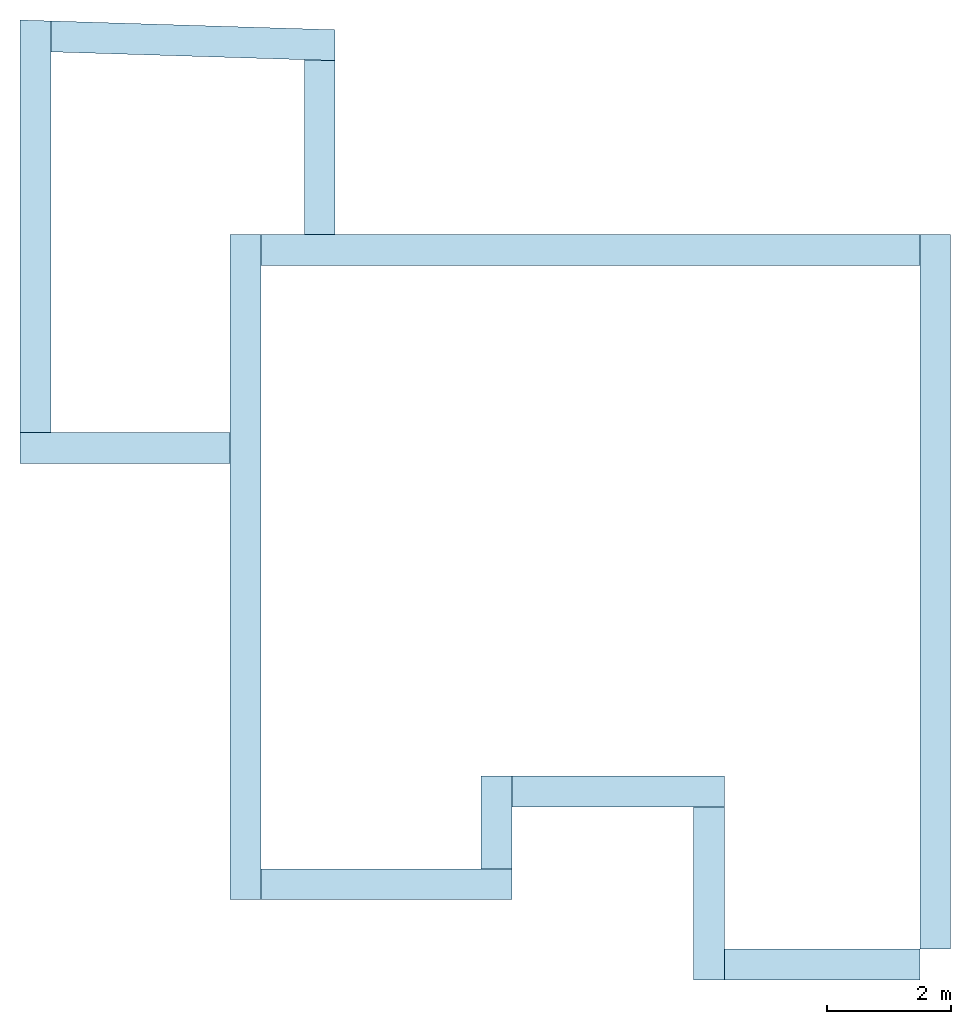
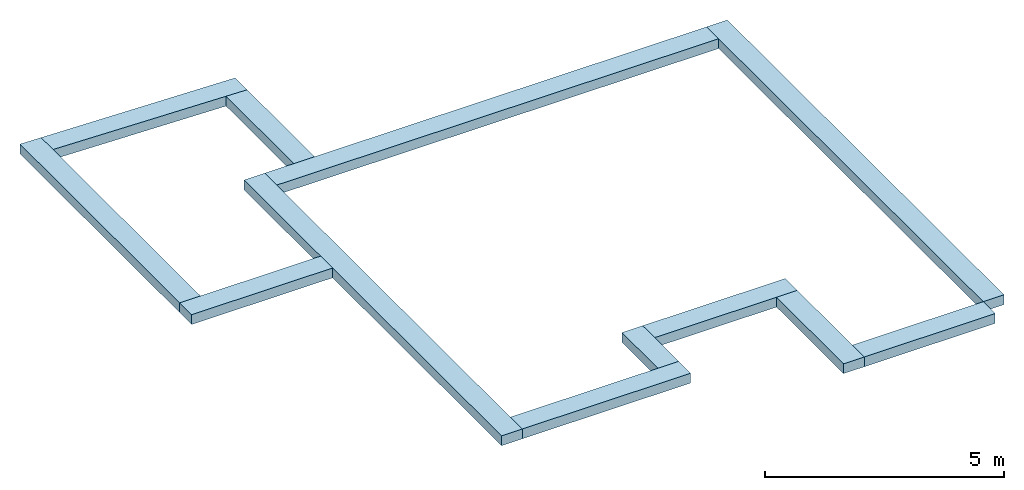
# One storey: 12 footings.
"""IFC2X3 building model written with IfcOpenShell, lengths in centimetres."""

from ifc_helpers import new_model, entity, si_unit, converted_unit, derived_unit, direction, frame, frame_2d, origin, place, context, subcontext, project, spatial, polyline, rectangle, outline, extrude, material, element, save


model = new_model("IFC2X3")

# Units and contexts
model_context = context("Model", 3, precision=0.001, world=origin(), true_north=direction((6.123031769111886e-17, 1.0)))
body_context = subcontext(model_context, "Body", "Model", "MODEL_VIEW")
ifc_project = project(units=[si_unit("LENGTHUNIT", "METRE", prefix="CENTI"), si_unit("AREAUNIT", "SQUARE_METRE"), si_unit("VOLUMEUNIT", "CUBIC_METRE"), converted_unit("PLANEANGLEUNIT", "DEGREE", entity("IfcRatioMeasure", 0.017453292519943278), si_unit("PLANEANGLEUNIT", "RADIAN"), dimensions=[0, 0, 0, 0, 0, 0, 0]), si_unit("MASSUNIT", "GRAM", prefix="KILO"), derived_unit("MASSDENSITYUNIT", [(si_unit("MASSUNIT", "GRAM", prefix="KILO"), 1), (si_unit("LENGTHUNIT", "METRE"), -3)]), derived_unit("MOMENTOFINERTIAUNIT", [(si_unit("LENGTHUNIT", "METRE"), 4)]), si_unit("TIMEUNIT", "SECOND"), si_unit("FREQUENCYUNIT", "HERTZ"), si_unit("THERMODYNAMICTEMPERATUREUNIT", "DEGREE_CELSIUS"), derived_unit("THERMALTRANSMITTANCEUNIT", [(si_unit("MASSUNIT", "GRAM", prefix="KILO"), 1), (si_unit("THERMODYNAMICTEMPERATUREUNIT", "KELVIN"), -1), (si_unit("TIMEUNIT", "SECOND"), -3)]), derived_unit("THERMALCONDUCTANCEUNIT", [(si_unit("MASSUNIT", "GRAM", prefix="KILO"), 1), (si_unit("LENGTHUNIT", "METRE"), 1), (si_unit("THERMODYNAMICTEMPERATUREUNIT", "KELVIN"), -1), (si_unit("TIMEUNIT", "SECOND"), -3)]), derived_unit("VOLUMETRICFLOWRATEUNIT", [(si_unit("LENGTHUNIT", "METRE"), 3), (si_unit("TIMEUNIT", "SECOND"), -1)]), derived_unit("MASSFLOWRATEUNIT", [(si_unit("MASSUNIT", "GRAM", prefix="KILO"), 1), (si_unit("TIMEUNIT", "SECOND"), -1)]), derived_unit("ROTATIONALFREQUENCYUNIT", [(si_unit("TIMEUNIT", "SECOND"), -1)]), si_unit("ELECTRICCURRENTUNIT", "AMPERE"), si_unit("ELECTRICVOLTAGEUNIT", "VOLT"), si_unit("POWERUNIT", "WATT"), si_unit("FORCEUNIT", "NEWTON", prefix="KILO"), si_unit("ILLUMINANCEUNIT", "LUX"), si_unit("LUMINOUSFLUXUNIT", "LUMEN"), si_unit("LUMINOUSINTENSITYUNIT", "CANDELA"), derived_unit("USERDEFINED", [(si_unit("MASSUNIT", "GRAM", prefix="KILO"), -1), (si_unit("LENGTHUNIT", "METRE"), -2), (si_unit("TIMEUNIT", "SECOND"), 3), (si_unit("LUMINOUSFLUXUNIT", "LUMEN"), 1)]), derived_unit("USERDEFINED", [(si_unit("MASSUNIT", "GRAM", prefix="KILO"), 1), (si_unit("LENGTHUNIT", "METRE"), 3), (si_unit("TIMEUNIT", "SECOND"), -3), (si_unit("ELECTRICCURRENTUNIT", "AMPERE"), -2)]), derived_unit("USERDEFINED", [(si_unit("LENGTHUNIT", "METRE"), 2), (si_unit("TIMEUNIT", "SECOND"), -2)]), derived_unit("SOUNDPOWERUNIT", [(si_unit("MASSUNIT", "GRAM", prefix="KILO"), 1), (si_unit("LENGTHUNIT", "METRE"), 2), (si_unit("TIMEUNIT", "SECOND"), -3)]), derived_unit("SOUNDPRESSUREUNIT", [(si_unit("MASSUNIT", "GRAM", prefix="KILO"), 1), (si_unit("LENGTHUNIT", "METRE"), -1), (si_unit("TIMEUNIT", "SECOND"), -2)]), derived_unit("LINEARVELOCITYUNIT", [(si_unit("LENGTHUNIT", "METRE"), 1), (si_unit("TIMEUNIT", "SECOND"), -1)]), si_unit("PRESSUREUNIT", "PASCAL"), derived_unit("USERDEFINED", [(si_unit("LENGTHUNIT", "METRE"), -2), (si_unit("MASSUNIT", "GRAM", prefix="KILO"), 1), (si_unit("TIMEUNIT", "SECOND"), -2)]), derived_unit("LINEARFORCEUNIT", [(si_unit("MASSUNIT", "GRAM", prefix="KILO"), 1), (si_unit("LENGTHUNIT", "METRE"), 1), (si_unit("TIMEUNIT", "SECOND"), -2), (si_unit("LENGTHUNIT", "METRE"), -1)]), derived_unit("PLANARFORCEUNIT", [(si_unit("MASSUNIT", "GRAM", prefix="KILO"), 1), (si_unit("LENGTHUNIT", "METRE"), 1), (si_unit("TIMEUNIT", "SECOND"), -2), (si_unit("LENGTHUNIT", "METRE"), -2)]), derived_unit("SPECIFICHEATCAPACITYUNIT", [(si_unit("LENGTHUNIT", "METRE"), 2), (si_unit("TIMEUNIT", "SECOND"), -2), (si_unit("THERMODYNAMICTEMPERATUREUNIT", "KELVIN"), -1)]), derived_unit("VAPORPERMEABILITYUNIT", [(si_unit("TIMEUNIT", "SECOND"), 1), (si_unit("LENGTHUNIT", "METRE"), -1)]), derived_unit("DYNAMICVISCOSITYUNIT", [(si_unit("MASSUNIT", "GRAM", prefix="KILO"), 1), (si_unit("LENGTHUNIT", "METRE"), -1), (si_unit("TIMEUNIT", "SECOND"), -1)]), derived_unit("THERMALEXPANSIONCOEFFICIENTUNIT", [(si_unit("THERMODYNAMICTEMPERATUREUNIT", "KELVIN"), -1)])], contexts=[model_context])

# Site, building, storey
site_placement = place(None, origin())
site = spatial("IfcSite", under=ifc_project, at=site_placement, Name="Default", CompositionType="ELEMENT")
building_placement = place(site_placement, origin())
building = spatial("IfcBuilding", under=site, at=building_placement, CompositionType="ELEMENT")
storey_placement = place(building_placement, frame((0.0, 0.0, -95.0)))
storey = spatial("IfcBuildingStorey", under=building, at=storey_placement, Name="0_Fond de fouille", CompositionType="ELEMENT", Elevation=-95.0)

# Footings
ifc_material = material(Name="Béton, haute résistance")
footing_1_placement = place(storey_placement, origin())
element("IfcFooting", 1, at=footing_1_placement, inside=storey, material=ifc_material, Name="Semelle filante:Soubassement 20 cm/ 50 cm x 25 cm", ObjectType="Semelle filante:Soubassement 20 cm/ 50 cm x 25 cm", PredefinedType="STRIP_FOOTING", context=body_context, shape_type="SweptSolid", body=[
    extrude(rectangle(XDim=1076.0, YDim=50.0, at=frame_2d((-48.249999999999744, 1.6342482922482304e-13), x_axis=(1.0, 0.0))), frame((-710.0684437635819, -98.10335412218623, 0.0), z_axis=(0.0, 0.0, 1.0), x_axis=(0.0, 1.0, 0.0)), (0.0, 0.0, 1.0), 25.0),
])
footing_2_placement = place(storey_placement, origin())
element("IfcFooting", 2, at=footing_2_placement, inside=storey, material=ifc_material, Name="Semelle filante:Soubassement 20 cm/ 50 cm x 25 cm", ObjectType="Semelle filante:Soubassement 20 cm/ 50 cm x 25 cm", PredefinedType="STRIP_FOOTING", context=body_context, shape_type="SweptSolid", body=[
    extrude(rectangle(XDim=406.0000000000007, YDim=50.0, at=frame_2d((30.60000000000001, 4.99999999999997), x_axis=(1.0, 0.0))), frame((-451.4684437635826, -654.3533541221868, 0.0), z_axis=(0.0, 0.0, 1.0), x_axis=(-1.0, 0.0, 0.0)), (0.0, 0.0, 1.0), 25.0),
])
footing_3_placement = place(storey_placement, origin())
element("IfcFooting", 3, at=footing_3_placement, inside=storey, material=ifc_material, Name="Semelle filante:Soubassement 20 cm/ 50 cm x 25 cm", ObjectType="Semelle filante:Soubassement 20 cm/ 50 cm x 25 cm", PredefinedType="STRIP_FOOTING", context=body_context, shape_type="SweptSolid", body=[
    extrude(rectangle(XDim=150.0000000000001, YDim=50.0, at=frame_2d((4.999999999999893, -4.999999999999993), x_axis=(1.0, 0.0))), frame((-299.06844376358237, -554.3533541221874, 0.0), z_axis=(0.0, 0.0, 1.0), x_axis=(0.0, -1.0, 0.0)), (0.0, 0.0, 1.0), 25.0),
])
footing_4_placement = place(storey_placement, origin())
element("IfcFooting", 4, at=footing_4_placement, inside=storey, material=ifc_material, Name="Semelle filante:Soubassement 20 cm/ 50 cm x 25 cm", ObjectType="Semelle filante:Soubassement 20 cm/ 50 cm x 25 cm", PredefinedType="STRIP_FOOTING", context=body_context, shape_type="SweptSolid", body=[
    extrude(rectangle(XDim=343.9999999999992, YDim=50.0, at=frame_2d((24.400000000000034, -5.00000000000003), x_axis=(1.0, 0.0))), frame((-82.6684437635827, -514.353354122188, 0.0), z_axis=(0.0, 0.0, 1.0), x_axis=(-1.0, 0.0, 0.0)), (0.0, 0.0, 1.0), 25.0),
])
footing_5_placement = place(storey_placement, origin())
element("IfcFooting", 5, at=footing_5_placement, inside=storey, material=ifc_material, Name="Semelle filante:Soubassement 20 cm/ 50 cm x 25 cm", ObjectType="Semelle filante:Soubassement 20 cm/ 50 cm x 25 cm", PredefinedType="STRIP_FOOTING", context=body_context, shape_type="SweptSolid", body=[
    extrude(rectangle(XDim=280.0000000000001, YDim=50.00000000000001, at=frame_2d((18.000000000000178, 5.0), x_axis=(1.0, 0.0))), frame((44.931556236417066, -692.3533541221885, 0.0), z_axis=(0.0, 0.0, 1.0), x_axis=(0.0, 1.0, 0.0)), (0.0, 0.0, 1.0), 25.0),
])
footing_6_placement = place(storey_placement, origin())
element("IfcFooting", 6, at=footing_6_placement, inside=storey, material=ifc_material, Name="Semelle filante:Soubassement 20 cm/ 50 cm x 25 cm", ObjectType="Semelle filante:Soubassement 20 cm/ 50 cm x 25 cm", PredefinedType="STRIP_FOOTING", context=body_context, shape_type="SweptSolid", body=[
    extrude(rectangle(XDim=316.00000000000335, YDim=50.0, at=frame_2d((-2.842170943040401e-14, 1.0835776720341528e-13), x_axis=(1.0, 0.0))), frame((222.93155623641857, -789.3533541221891, 0.0), z_axis=(0.0, 0.0, 1.0), x_axis=(-1.0, 0.0, 0.0)), (0.0, 0.0, 1.0), 25.0),
])
footing_7_placement = place(storey_placement, origin())
element("IfcFooting", 7, at=footing_7_placement, inside=storey, material=ifc_material, Name="Semelle filante:Soubassement 20 cm/ 50 cm x 25 cm", ObjectType="Semelle filante:Soubassement 20 cm/ 50 cm x 25 cm", PredefinedType="STRIP_FOOTING", context=body_context, shape_type="SweptSolid", body=[
    extrude(rectangle(XDim=1156.0, YDim=50.0, at=frame_2d((105.59999999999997, 4.99999999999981), x_axis=(1.0, 0.0))), frame((400.93155623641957, -80.75335412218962, 0.0), z_axis=(0.0, 0.0, 1.0), x_axis=(0.0, -1.0, 0.0)), (0.0, 0.0, 1.0), 25.0),
])
footing_8_placement = place(storey_placement, origin())
element("IfcFooting", 8, at=footing_8_placement, inside=storey, material=ifc_material, Name="Semelle filante:Soubassement 20 cm/ 50 cm x 25 cm", ObjectType="Semelle filante:Soubassement 20 cm/ 50 cm x 25 cm", PredefinedType="STRIP_FOOTING", context=body_context, shape_type="SweptSolid", body=[
    extrude(rectangle(XDim=1066.0000000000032, YDim=50.00000000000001, at=frame_2d((145.99999999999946, -8.333333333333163), x_axis=(1.0, 0.0))), frame((-298.0684437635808, 374.979979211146, 0.0)), (0.0, 0.0, 1.0), 25.0),
])
footing_9_placement = place(storey_placement, origin())
element("IfcFooting", 9, at=footing_9_placement, inside=storey, material=ifc_material, Name="Semelle filante:Soubassement 20 cm/ 50 cm x 25 cm", ObjectType="Semelle filante:Soubassement 20 cm/ 50 cm x 25 cm", PredefinedType="STRIP_FOOTING", context=body_context, shape_type="SweptSolid", body=[
    extrude(rectangle(XDim=339.9999999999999, YDim=50.000000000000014, at=frame_2d((24.000000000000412, -5.000000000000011), x_axis=(1.0, 0.0))), frame((-929.068443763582, 51.646645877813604, 0.0)), (0.0, 0.0, 1.0), 25.0),
])
footing_10_placement = place(storey_placement, origin())
element("IfcFooting", 10, at=footing_10_placement, inside=storey, material=ifc_material, Name="Semelle filante:Soubassement 20 cm/ 50 cm x 25 cm", ObjectType="Semelle filante:Soubassement 20 cm/ 50 cm x 25 cm", PredefinedType="STRIP_FOOTING", context=body_context, shape_type="SweptSolid", body=[
    extrude(outline(polyline([(-277.58828968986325, -30.0), (389.8208445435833, -30.0), (389.8208445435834, 20.0), (-226.01469648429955, 20.0), (-276.0387029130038, 20.0), (-277.58828968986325, -30.0)])), frame((-1045.0684437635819, 461.4674904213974, 0.0), z_axis=(0.0, 0.0, 1.0), x_axis=(0.0, -1.0, 0.0)), (0.0, 0.0, 1.0), 25.0),
])
footing_11_placement = place(storey_placement, origin())
element("IfcFooting", 11, at=footing_11_placement, inside=storey, material=ifc_material, Name="Semelle filante:Soubassement 20 cm/ 50 cm x 25 cm", ObjectType="Semelle filante:Soubassement 20 cm/ 50 cm x 25 cm", PredefinedType="STRIP_FOOTING", context=body_context, shape_type="SweptSolid", body=[
    extrude(outline(polyline([(-193.16339287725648, -30.0), (267.0574662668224, -30.0), (265.5078794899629, 20.0), (-144.68897322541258, 20.0), (-194.71297965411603, 20.0), (-193.16339287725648, -30.0)])), frame((-759.0684437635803, 699.2479878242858, 0.0), z_axis=(0.0, 0.0, 1.0), x_axis=(-0.9995201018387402, 0.030976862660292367, 0.0)), (0.0, 0.0, 1.0), 24.999999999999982),
])
footing_12_placement = place(storey_placement, origin())
element("IfcFooting", 12, at=footing_12_placement, inside=storey, material=ifc_material, Name="Semelle filante:Soubassement 20 cm/ 50 cm x 25 cm", ObjectType="Semelle filante:Soubassement 20 cm/ 50 cm x 25 cm", PredefinedType="STRIP_FOOTING", context=body_context, shape_type="SweptSolid", body=[
    extrude(outline(polyline([(-25.0, -141.1770680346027), (25.0, -141.1770680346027), (25.0, 140.40227464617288), (-25.0, 141.95186142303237), (-25.0, -141.1770680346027)])), frame((-590.0684437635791, 532.8237139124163, 0.0)), (0.0, 0.0, 1.0), 25.0),
])

save(model, "model.ifc")
